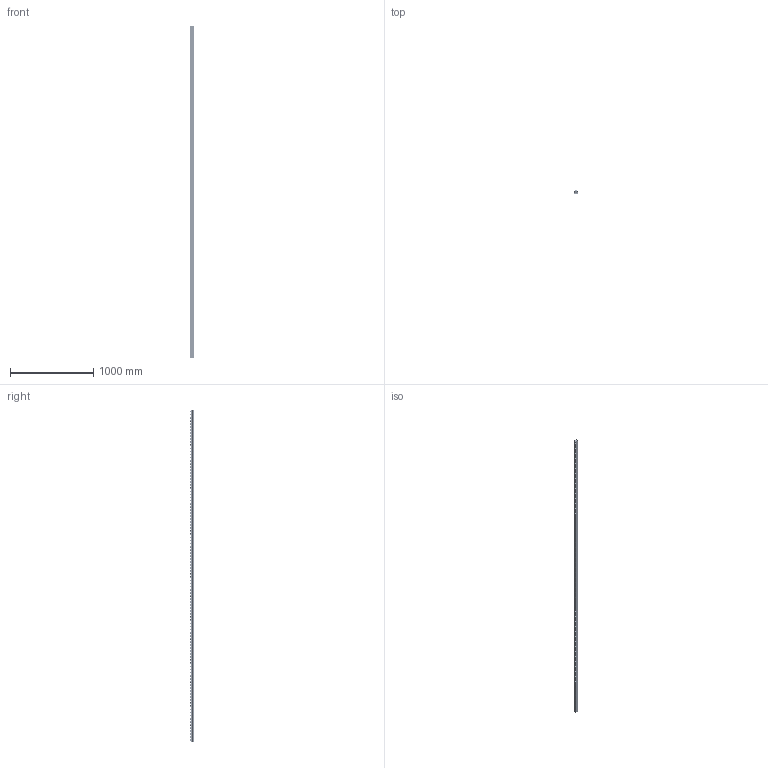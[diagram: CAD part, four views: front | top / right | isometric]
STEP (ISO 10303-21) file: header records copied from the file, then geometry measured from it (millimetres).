
FILE_DESCRIPTION (( 'STEP AP203' ), '1' );
FILE_NAME ('015.200.011.STEP', '2016-10-24T08:09:10', ( '' ), ( '' ), 'SwSTEP 2.0', 'SolidWorks 2016', '' );
FILE_SCHEMA (( 'CONFIG_CONTROL_DESIGN' ));
Length unit declared in the file: millimetre
Products named in the file (3): 015.200.011; 015.200.006_1_100<A macchina>; 015.200.011_1
Assembly tree (109 placements, depth 2):
  015.200.011
    015.200.006_1_100<A macchina>
    015.200.011_1  x108
Bounding box: 41 x 44.34 x 4000 mm (x, y, z)
Volume: 1962858.8 mm3; surface area: 1820630.6 mm2
Topology: 325 solids, 325 shells, 9256 faces, 25170 edges, 16348 vertices
Faces by surface type: plane 4572, cylinder 3172, torus 1512
Entity records: 129181 total; most frequent: DIRECTION 22920, ORIENTED_EDGE 22092, CARTESIAN_POINT 21782, EDGE_CURVE 11046, AXIS2_PLACEMENT_3D 8498, VERTEX_POINT 7360, VECTOR 5924, LINE 5924
